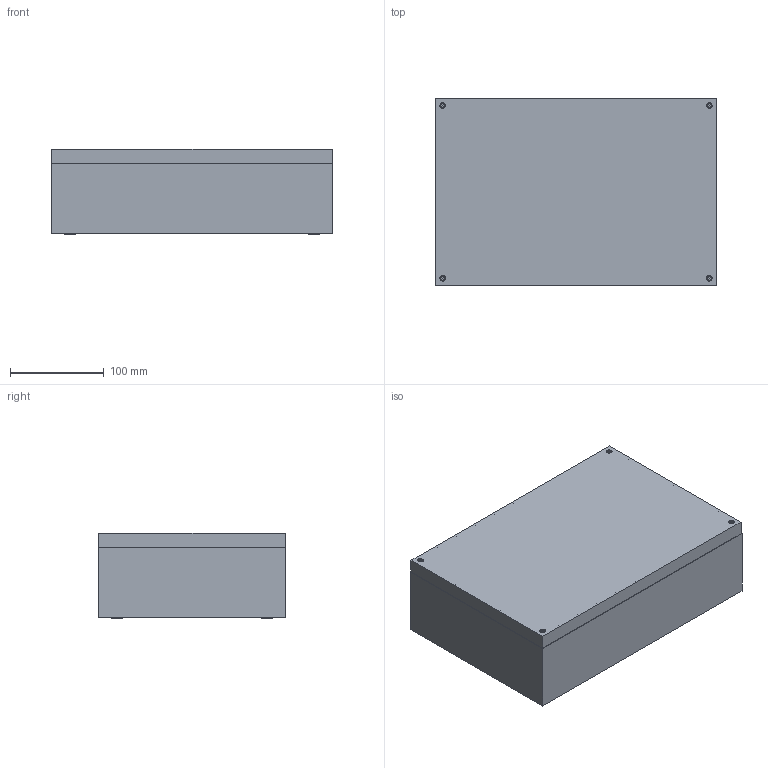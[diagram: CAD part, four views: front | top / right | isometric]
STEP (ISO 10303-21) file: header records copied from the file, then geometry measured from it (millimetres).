
FILE_DESCRIPTION(/* description */ ('Unknown'),/* implementation_level */ '2;1');
FILE_NAME(/* name */ 'SCA02003009',/* time_stamp */ '2025-02-04T15:52:18+01:00',/* author */ ('Unknown'),/* organization */ ('Unknown'),/* preprocessor_version */ 'ST-DEVELOPER v19.4',/* originating_system */ 'Solid Edge',/* authorisation */ 'Unknown');
FILE_SCHEMA (('CONFIG_CONTROL_DESIGN'));
Length unit declared in the file: millimetre
Products named in the file (10): SCA02003009; S000X000.45; S0000000.34; AE00511.01; S0000000.78; S0000000.02; S000X000.44_oa_0; S0000000.33; AE00407.01; S0000000.04
Assembly tree (18 placements, depth 3):
  SCA02003009
    S000X000.45
      S0000000.34
      AE00511.01  x4
    S0000000.78  x4
    S0000000.02  x4
    S000X000.44_oa_0
      S0000000.33
      AE00407.01
    S0000000.04
Bounding box: 300 x 200 x 91 mm (x, y, z)
Volume: 404949.2 mm3; surface area: 443591.7 mm2
Topology: 15 solids, 15 shells, 345 faces, 807 edges, 515 vertices
Faces by surface type: plane 193, cylinder 70, cone 69, torus 13
Full cylindrical faces by diameter (mm): 4.2 x8, 5 x5, 6 x4, 6.5 x1, 6.647 x4, 7 x4, 8 x4, 8.25 x4, 11 x4, 12 x4
Entity records: 4296 total; most frequent: CARTESIAN_POINT 682, DIRECTION 602, ORIENTED_EDGE 512, EDGE_CURVE 256, AXIS2_PLACEMENT_3D 225, FACE_BOUND 189, EDGE_LOOP 188, VERTEX_POINT 185
